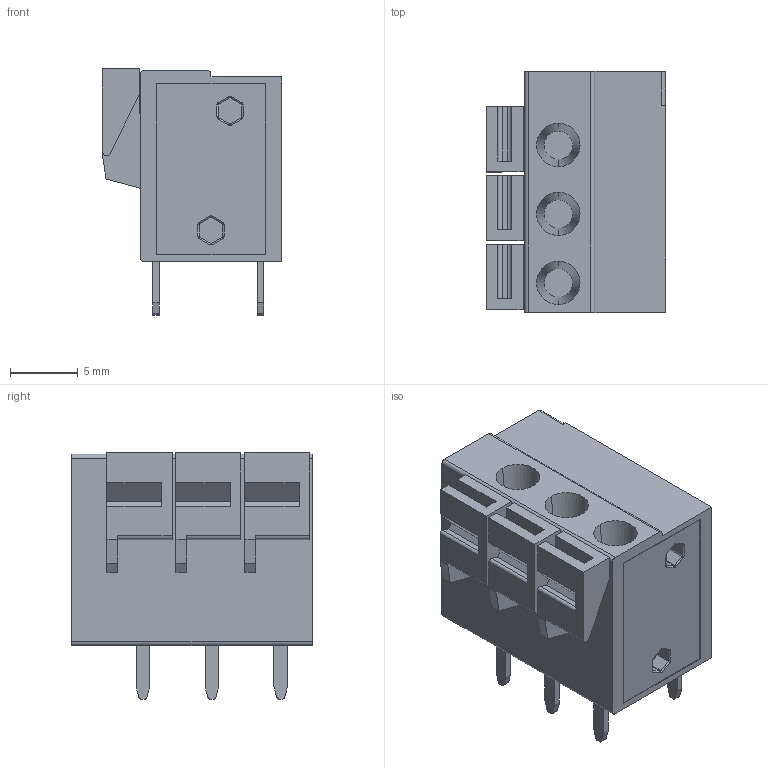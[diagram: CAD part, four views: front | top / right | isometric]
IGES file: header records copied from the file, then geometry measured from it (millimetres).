
Start section: 3D InterOp IGES (Version 23 0 1), Spatial Corp. Copyright (c) 1999-2007.
Global section: file name: 20020302h031b01lf.igs; native system: Spatial Corp.; preprocessor: 3D InterOp ACIS/IGES; author: TraceParts; organization: TraceParts S.A.; date: 20151202.133342; units: millimetre
Bounding box: 13.2 x 17.74 x 18.15 mm (x, y, z)
Surface area: 1863.4 mm2 (no closed solid volume)
Topology: 0 solids, 0 shells, 217 faces, 1164 edges, 1164 vertices
Faces by surface type: extrusion 139, revolution 78
